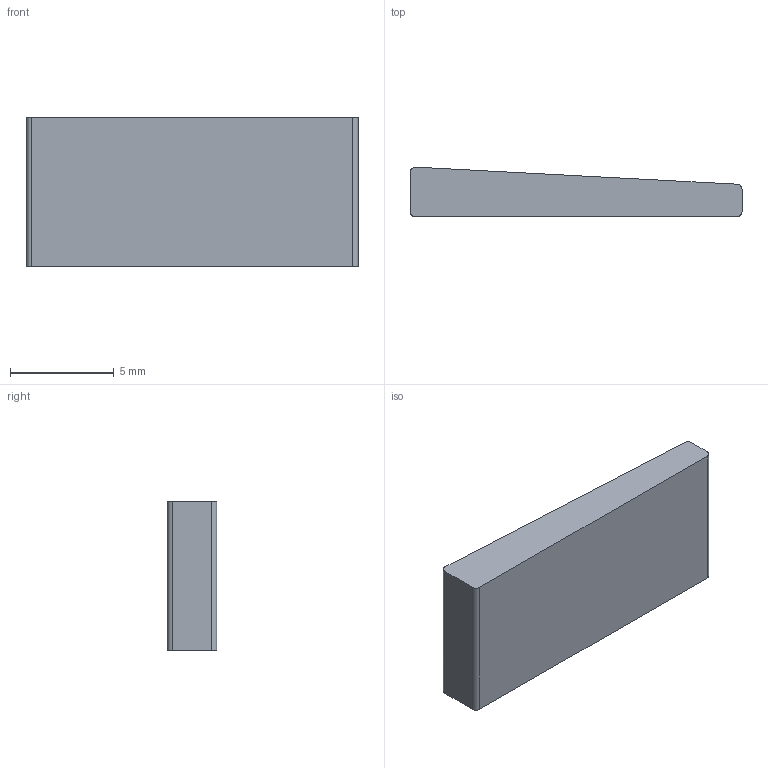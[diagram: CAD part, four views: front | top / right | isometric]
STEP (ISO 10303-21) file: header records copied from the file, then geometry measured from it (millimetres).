
FILE_DESCRIPTION(('Open CASCADE Model'),'2;1');
FILE_NAME('Open CASCADE Shape Model','2026-08-15T08:52:40',('Author'),( 'Open CASCADE'),'Open CASCADE STEP processor 7.9','Open CASCADE 7.9' ,'Unknown');
FILE_SCHEMA(('AUTOMOTIVE_DESIGN { 1 0 10303 214 1 1 1 1 }'));
Length unit declared in the file: millimetre
Products named in the file (1): Open CASCADE STEP translator 7.9 11
Bounding box: 16 x 2.39 x 7.2 mm (x, y, z)
Volume: 227.1 mm3; surface area: 319 mm2
Topology: 1 solids, 1 shells, 10 faces, 24 edges, 16 vertices
Faces by surface type: plane 6, cylinder 4
Entity records: 624 total; most frequent: CARTESIAN_POINT 111, DIRECTION 100, LINE 56, VECTOR 56, ORIENTED_EDGE 48, PCURVE 48, DEFINITIONAL_REPRESENTATION 48, EDGE_CURVE 24
